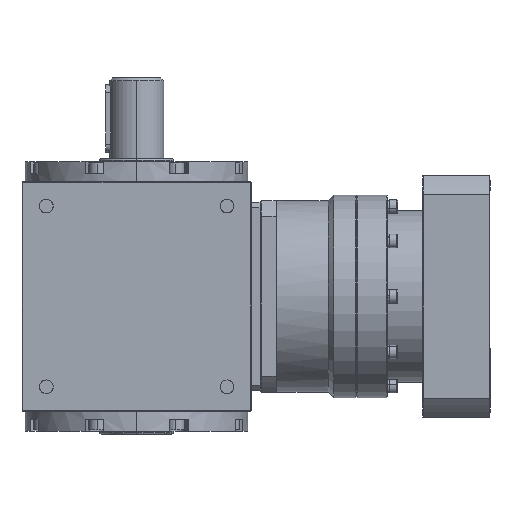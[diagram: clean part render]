
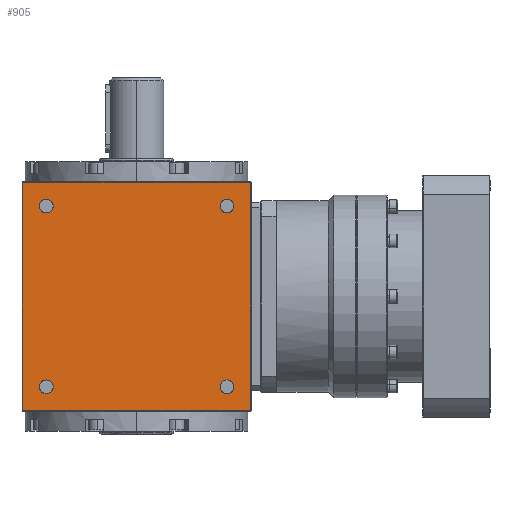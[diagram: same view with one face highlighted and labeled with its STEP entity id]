
A CAD part, left-side view. The second image highlights one B-rep face of the part: STEP entity #905.
In plain terms, the highlighted planar face has unit normal (-1, 0, 0).
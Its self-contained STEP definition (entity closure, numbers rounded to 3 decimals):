
#64 = VERTEX_POINT ( 'NONE', #8374 ) ;
#514 = ORIENTED_EDGE ( 'NONE', *, *, #11477, .T. ) ;
#905 = ADVANCED_FACE ( 'NONE', ( #36186, #39185, #20937, #29851, #21129 ), #5848, .T. ) ;
#1594 = CARTESIAN_POINT ( 'NONE',  ( -85., 84.5, -84.5 ) ) ;
#1921 = VERTEX_POINT ( 'NONE', #32299 ) ;
#2237 = VECTOR ( 'NONE', #19054, 1000. ) ;
#2490 = CIRCLE ( 'NONE', #34147, 5.1 ) ;
#2744 = LINE ( 'NONE', #26950, #7081 ) ;
#3030 = VERTEX_POINT ( 'NONE', #13890 ) ;
#3598 = EDGE_CURVE ( 'NONE', #20144, #6224, #5672, .T. ) ;
#3676 = EDGE_LOOP ( 'NONE', ( #13693, #514 ) ) ;
#4563 = CARTESIAN_POINT ( 'NONE',  ( -85., 67., -67. ) ) ;
#4811 = CARTESIAN_POINT ( 'NONE',  ( -85., 84.5, -85. ) ) ;
#5382 = VERTEX_POINT ( 'NONE', #1594 ) ;
#5493 = ORIENTED_EDGE ( 'NONE', *, *, #27897, .T. ) ;
#5672 = LINE ( 'NONE', #32066, #32138 ) ;
#5740 = AXIS2_PLACEMENT_3D ( 'NONE', #32225, #38382, #11212 ) ;
#5848 = PLANE ( 'NONE',  #29553 ) ;
#6224 = VERTEX_POINT ( 'NONE', #37011 ) ;
#7053 = CARTESIAN_POINT ( 'NONE',  ( -85., 67., -67. ) ) ;
#7081 = VECTOR ( 'NONE', #11901, 1000. ) ;
#7414 = EDGE_CURVE ( 'NONE', #25695, #13888, #2490, .T. ) ;
#7771 = DIRECTION ( 'NONE',  ( 1., 0., 0. ) ) ;
#8374 = CARTESIAN_POINT ( 'NONE',  ( -85., -84.5, -84.5 ) ) ;
#8970 = CARTESIAN_POINT ( 'NONE',  ( -85., 67., 72.1 ) ) ;
#9956 = AXIS2_PLACEMENT_3D ( 'NONE', #4563, #26183, #20062 ) ;
#10503 = AXIS2_PLACEMENT_3D ( 'NONE', #35885, #14684, #11111 ) ;
#10673 = AXIS2_PLACEMENT_3D ( 'NONE', #28609, #7771, #19894 ) ;
#11111 = DIRECTION ( 'NONE',  ( 0., 0., 1. ) ) ;
#11212 = DIRECTION ( 'NONE',  ( 0., 0., 1. ) ) ;
#11477 = EDGE_CURVE ( 'NONE', #3030, #18467, #32815, .T. ) ;
#11901 = DIRECTION ( 'NONE',  ( 0., -1., 0. ) ) ;
#11964 = CIRCLE ( 'NONE', #10673, 5.1 ) ;
#12656 = EDGE_LOOP ( 'NONE', ( #5493, #35002 ) ) ;
#12738 = CARTESIAN_POINT ( 'NONE',  ( -85., -67., -61.9 ) ) ;
#13693 = ORIENTED_EDGE ( 'NONE', *, *, #38740, .T. ) ;
#13888 = VERTEX_POINT ( 'NONE', #34891 ) ;
#13890 = CARTESIAN_POINT ( 'NONE',  ( -85., 67., 61.9 ) ) ;
#14231 = AXIS2_PLACEMENT_3D ( 'NONE', #38232, #26712, #35627 ) ;
#14466 = DIRECTION ( 'NONE',  ( 1., 0., 0. ) ) ;
#14470 = EDGE_CURVE ( 'NONE', #31008, #1921, #37572, .T. ) ;
#14684 = DIRECTION ( 'NONE',  ( 1., 0., 0. ) ) ;
#15108 = AXIS2_PLACEMENT_3D ( 'NONE', #26744, #14466, #23781 ) ;
#15684 = CARTESIAN_POINT ( 'NONE',  ( -85., -84.5, 84.5 ) ) ;
#16829 = EDGE_LOOP ( 'NONE', ( #22559, #29890, #34073, #25443 ) ) ;
#18467 = VERTEX_POINT ( 'NONE', #8970 ) ;
#19054 = DIRECTION ( 'NONE',  ( 0., 0., 1. ) ) ;
#19894 = DIRECTION ( 'NONE',  ( 0., 0., 1. ) ) ;
#20062 = DIRECTION ( 'NONE',  ( 0., 0., 1. ) ) ;
#20144 = VERTEX_POINT ( 'NONE', #15684 ) ;
#20208 = EDGE_CURVE ( 'NONE', #64, #20144, #24988, .T. ) ;
#20399 = AXIS2_PLACEMENT_3D ( 'NONE', #27899, #24925, #37014 ) ;
#20937 = FACE_BOUND ( 'NONE', #35131, .T. ) ;
#21129 = FACE_BOUND ( 'NONE', #3676, .T. ) ;
#21981 = VERTEX_POINT ( 'NONE', #12738 ) ;
#22256 = ORIENTED_EDGE ( 'NONE', *, *, #31638, .T. ) ;
#22559 = ORIENTED_EDGE ( 'NONE', *, *, #20208, .T. ) ;
#23005 = ORIENTED_EDGE ( 'NONE', *, *, #14470, .T. ) ;
#23156 = DIRECTION ( 'NONE',  ( 0., 1., 0. ) ) ;
#23320 = DIRECTION ( 'NONE',  ( -1., 0., 0. ) ) ;
#23781 = DIRECTION ( 'NONE',  ( 0., 0., 1. ) ) ;
#24925 = DIRECTION ( 'NONE',  ( 1., 0., 0. ) ) ;
#24988 = LINE ( 'NONE', #37083, #2237 ) ;
#25320 = DIRECTION ( 'NONE',  ( 1., 0., 0. ) ) ;
#25443 = ORIENTED_EDGE ( 'NONE', *, *, #31112, .T. ) ;
#25695 = VERTEX_POINT ( 'NONE', #30942 ) ;
#25843 = LINE ( 'NONE', #4811, #37059 ) ;
#25897 = EDGE_LOOP ( 'NONE', ( #22256, #23005 ) ) ;
#25979 = VERTEX_POINT ( 'NONE', #27144 ) ;
#26120 = ORIENTED_EDGE ( 'NONE', *, *, #7414, .T. ) ;
#26183 = DIRECTION ( 'NONE',  ( 1., 0., 0. ) ) ;
#26712 = DIRECTION ( 'NONE',  ( 1., 0., 0. ) ) ;
#26744 = CARTESIAN_POINT ( 'NONE',  ( -85., 67., 67. ) ) ;
#26876 = CARTESIAN_POINT ( 'NONE',  ( -85., 85., -85. ) ) ;
#26950 = CARTESIAN_POINT ( 'NONE',  ( -85., 85., -84.5 ) ) ;
#27144 = CARTESIAN_POINT ( 'NONE',  ( -85., -67., -72.1 ) ) ;
#27897 = EDGE_CURVE ( 'NONE', #21981, #25979, #37400, .T. ) ;
#27899 = CARTESIAN_POINT ( 'NONE',  ( -85., 67., 67. ) ) ;
#28609 = CARTESIAN_POINT ( 'NONE',  ( -85., -67., 67. ) ) ;
#28880 = CIRCLE ( 'NONE', #10503, 5.1 ) ;
#29553 = AXIS2_PLACEMENT_3D ( 'NONE', #26876, #23320, #33212 ) ;
#29851 = FACE_BOUND ( 'NONE', #12656, .T. ) ;
#29890 = ORIENTED_EDGE ( 'NONE', *, *, #3598, .T. ) ;
#30942 = CARTESIAN_POINT ( 'NONE',  ( -85., 67., -72.1 ) ) ;
#31008 = VERTEX_POINT ( 'NONE', #32715 ) ;
#31112 = EDGE_CURVE ( 'NONE', #5382, #64, #2744, .T. ) ;
#31578 = DIRECTION ( 'NONE',  ( 0., 0., -1. ) ) ;
#31638 = EDGE_CURVE ( 'NONE', #1921, #31008, #11964, .T. ) ;
#32066 = CARTESIAN_POINT ( 'NONE',  ( -85., 85., 84.5 ) ) ;
#32138 = VECTOR ( 'NONE', #23156, 1000. ) ;
#32225 = CARTESIAN_POINT ( 'NONE',  ( -85., -67., -67. ) ) ;
#32299 = CARTESIAN_POINT ( 'NONE',  ( -85., -67., 72.1 ) ) ;
#32715 = CARTESIAN_POINT ( 'NONE',  ( -85., -67., 61.9 ) ) ;
#32815 = CIRCLE ( 'NONE', #15108, 5.1 ) ;
#33212 = DIRECTION ( 'NONE',  ( 0., -1., 0. ) ) ;
#33377 = CIRCLE ( 'NONE', #9956, 5.1 ) ;
#33680 = CIRCLE ( 'NONE', #20399, 5.1 ) ;
#33709 = EDGE_CURVE ( 'NONE', #6224, #5382, #25843, .T. ) ;
#34073 = ORIENTED_EDGE ( 'NONE', *, *, #33709, .T. ) ;
#34147 = AXIS2_PLACEMENT_3D ( 'NONE', #7053, #25320, #37416 ) ;
#34287 = EDGE_CURVE ( 'NONE', #25979, #21981, #28880, .T. ) ;
#34891 = CARTESIAN_POINT ( 'NONE',  ( -85., 67., -61.9 ) ) ;
#35002 = ORIENTED_EDGE ( 'NONE', *, *, #34287, .T. ) ;
#35131 = EDGE_LOOP ( 'NONE', ( #37250, #26120 ) ) ;
#35513 = EDGE_CURVE ( 'NONE', #13888, #25695, #33377, .T. ) ;
#35627 = DIRECTION ( 'NONE',  ( 0., 0., 1. ) ) ;
#35885 = CARTESIAN_POINT ( 'NONE',  ( -85., -67., -67. ) ) ;
#36186 = FACE_OUTER_BOUND ( 'NONE', #16829, .T. ) ;
#37011 = CARTESIAN_POINT ( 'NONE',  ( -85., 84.5, 84.5 ) ) ;
#37014 = DIRECTION ( 'NONE',  ( 0., 0., 1. ) ) ;
#37059 = VECTOR ( 'NONE', #31578, 1000. ) ;
#37083 = CARTESIAN_POINT ( 'NONE',  ( -85., -84.5, -85. ) ) ;
#37250 = ORIENTED_EDGE ( 'NONE', *, *, #35513, .T. ) ;
#37400 = CIRCLE ( 'NONE', #5740, 5.1 ) ;
#37416 = DIRECTION ( 'NONE',  ( 0., 0., 1. ) ) ;
#37572 = CIRCLE ( 'NONE', #14231, 5.1 ) ;
#38232 = CARTESIAN_POINT ( 'NONE',  ( -85., -67., 67. ) ) ;
#38382 = DIRECTION ( 'NONE',  ( 1., 0., 0. ) ) ;
#38740 = EDGE_CURVE ( 'NONE', #18467, #3030, #33680, .T. ) ;
#39185 = FACE_BOUND ( 'NONE', #25897, .T. ) ;
